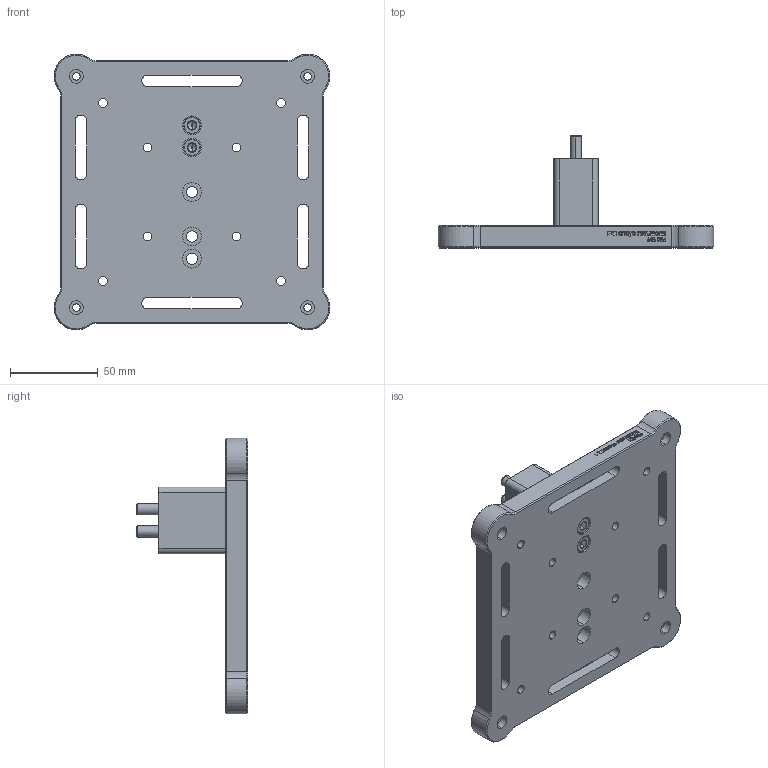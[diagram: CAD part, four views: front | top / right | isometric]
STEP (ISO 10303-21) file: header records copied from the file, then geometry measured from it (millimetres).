
FILE_DESCRIPTION (( 'STEP AP214' ), '1' );
FILE_NAME ('286-MKIT, pedestal.STEP', '2024-03-06T21:16:24', ( '' ), ( '' ), 'SwSTEP 2.0', 'SolidWorks 2021', '' );
FILE_SCHEMA (( 'AUTOMOTIVE_DESIGN' ));
Length unit declared in the file: inch
Products named in the file (1): 286-MKIT, pedestal
Bounding box: 157.47 x 63.88 x 157.48 mm (x, y, z)
Volume: 291574.1 mm3; surface area: 66503.9 mm2
Topology: 1 solids, 1 shells, 900 faces, 2348 edges, 1538 vertices
Faces by surface type: plane 434, bspline 301, cylinder 113, cone 52
Entity records: 44250 total; most frequent: CARTESIAN_POINT 20367, ORIENTED_EDGE 4696, DIRECTION 3230, EDGE_CURVE 2348, VERTEX_POINT 1538, VECTOR 1438, LINE 1438, EDGE_LOOP 1030
